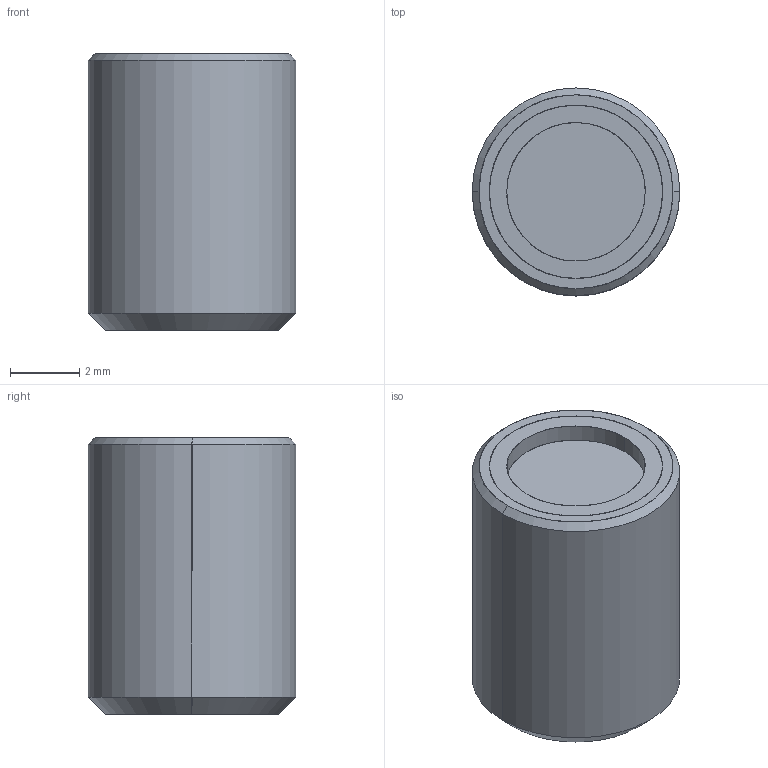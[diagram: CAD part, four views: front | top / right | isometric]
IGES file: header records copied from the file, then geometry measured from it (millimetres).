
Global section: file name: E:\UnigraphicsGraphicData\MISUMI_PRESS-PARTS\IGES\3d_hxu6_00545_r00.igs; native system: NX V5.0; preprocessor: UGS NX IGES V5.0; author: MISUMI; date: 20110105.161101; units: millimetre
Bounding box: 6 x 6 x 8 mm (x, y, z)
Surface area: 375.4 mm2 (no closed solid volume)
Topology: 0 solids, 0 shells, 26 faces, 184 edges, 184 vertices
Faces by surface type: bspline 26
